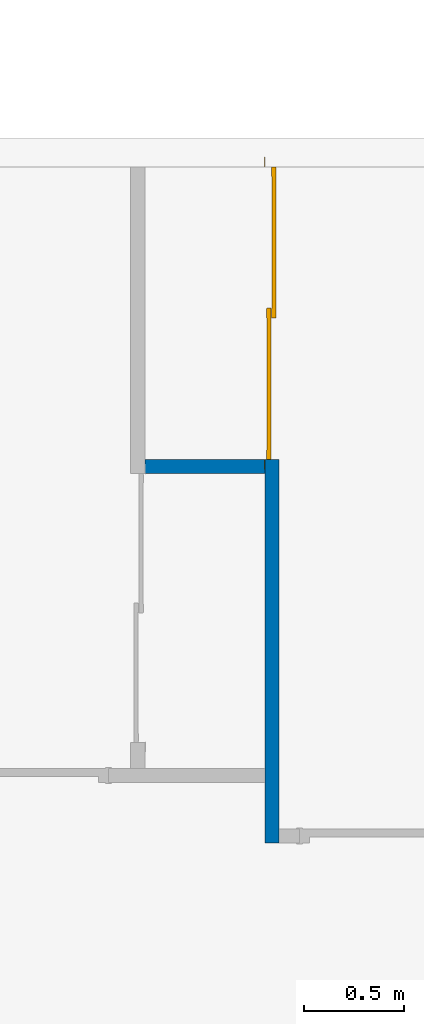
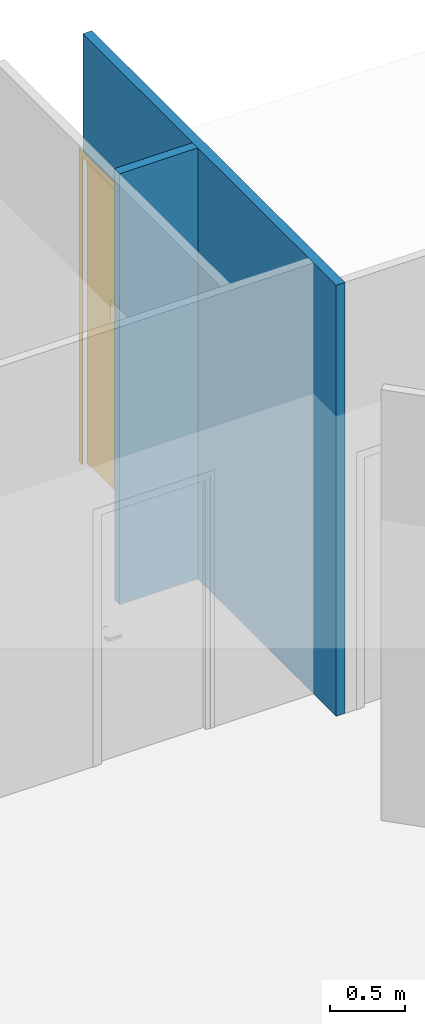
# One storey, part 5 of 7: 2 walls, 1 door, 1 opening.
"""IFC2X3 building model written with IfcOpenShell, lengths in centimetres."""

from ifc_helpers import new_model, entity, si_unit, converted_unit, derived_unit, direction, frame, frame_2d, origin, origin_2d_with_axis, place, context, subcontext, project, spatial, polyline, circle_curve, parameter, trimmed, segment, composite_curve, rectangle, outline, extrude, source, transform, mapped, material, material_list, layer, layer_set, layer_usage, type_object, type_shapes, element, fill, save


model = new_model("IFC2X3")

# Units and contexts
model_context = context("Model", 3, precision=0.001, world=origin(), true_north=direction((6.123031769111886e-17, 1.0)))
body_context = subcontext(model_context, "Body", "Model", "MODEL_VIEW")
ifc_project = project(units=[si_unit("LENGTHUNIT", "METRE", prefix="CENTI"), si_unit("AREAUNIT", "SQUARE_METRE"), si_unit("VOLUMEUNIT", "CUBIC_METRE"), converted_unit("PLANEANGLEUNIT", "DEGREE", entity("IfcRatioMeasure", 0.017453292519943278), si_unit("PLANEANGLEUNIT", "RADIAN"), dimensions=[0, 0, 0, 0, 0, 0, 0]), si_unit("MASSUNIT", "GRAM", prefix="KILO"), derived_unit("MASSDENSITYUNIT", [(si_unit("MASSUNIT", "GRAM", prefix="KILO"), 1), (si_unit("LENGTHUNIT", "METRE"), -3)]), derived_unit("MOMENTOFINERTIAUNIT", [(si_unit("LENGTHUNIT", "METRE"), 4)]), si_unit("TIMEUNIT", "SECOND"), si_unit("FREQUENCYUNIT", "HERTZ"), si_unit("THERMODYNAMICTEMPERATUREUNIT", "DEGREE_CELSIUS"), derived_unit("THERMALTRANSMITTANCEUNIT", [(si_unit("MASSUNIT", "GRAM", prefix="KILO"), 1), (si_unit("THERMODYNAMICTEMPERATUREUNIT", "KELVIN"), -1), (si_unit("TIMEUNIT", "SECOND"), -3)]), derived_unit("THERMALCONDUCTANCEUNIT", [(si_unit("MASSUNIT", "GRAM", prefix="KILO"), 1), (si_unit("LENGTHUNIT", "METRE"), 1), (si_unit("THERMODYNAMICTEMPERATUREUNIT", "KELVIN"), -1), (si_unit("TIMEUNIT", "SECOND"), -3)]), derived_unit("VOLUMETRICFLOWRATEUNIT", [(si_unit("LENGTHUNIT", "METRE"), 3), (si_unit("TIMEUNIT", "SECOND"), -1)]), derived_unit("MASSFLOWRATEUNIT", [(si_unit("MASSUNIT", "GRAM", prefix="KILO"), 1), (si_unit("TIMEUNIT", "SECOND"), -1)]), derived_unit("ROTATIONALFREQUENCYUNIT", [(si_unit("TIMEUNIT", "SECOND"), -1)]), si_unit("ELECTRICCURRENTUNIT", "AMPERE"), si_unit("ELECTRICVOLTAGEUNIT", "VOLT"), si_unit("POWERUNIT", "WATT"), si_unit("FORCEUNIT", "NEWTON", prefix="KILO"), si_unit("ILLUMINANCEUNIT", "LUX"), si_unit("LUMINOUSFLUXUNIT", "LUMEN"), si_unit("LUMINOUSINTENSITYUNIT", "CANDELA"), derived_unit("USERDEFINED", [(si_unit("MASSUNIT", "GRAM", prefix="KILO"), -1), (si_unit("LENGTHUNIT", "METRE"), -2), (si_unit("TIMEUNIT", "SECOND"), 3), (si_unit("LUMINOUSFLUXUNIT", "LUMEN"), 1)]), derived_unit("USERDEFINED", [(si_unit("MASSUNIT", "GRAM", prefix="KILO"), 1), (si_unit("LENGTHUNIT", "METRE"), 3), (si_unit("TIMEUNIT", "SECOND"), -3), (si_unit("ELECTRICCURRENTUNIT", "AMPERE"), -2)]), derived_unit("USERDEFINED", [(si_unit("LENGTHUNIT", "METRE"), 2), (si_unit("TIMEUNIT", "SECOND"), -2)]), derived_unit("SOUNDPOWERUNIT", [(si_unit("MASSUNIT", "GRAM", prefix="KILO"), 1), (si_unit("LENGTHUNIT", "METRE"), 2), (si_unit("TIMEUNIT", "SECOND"), -3)]), derived_unit("SOUNDPRESSUREUNIT", [(si_unit("MASSUNIT", "GRAM", prefix="KILO"), 1), (si_unit("LENGTHUNIT", "METRE"), -1), (si_unit("TIMEUNIT", "SECOND"), -2)]), derived_unit("LINEARVELOCITYUNIT", [(si_unit("LENGTHUNIT", "METRE"), 1), (si_unit("TIMEUNIT", "SECOND"), -1)]), si_unit("PRESSUREUNIT", "PASCAL"), derived_unit("USERDEFINED", [(si_unit("LENGTHUNIT", "METRE"), -2), (si_unit("MASSUNIT", "GRAM", prefix="KILO"), 1), (si_unit("TIMEUNIT", "SECOND"), -2)]), derived_unit("LINEARFORCEUNIT", [(si_unit("MASSUNIT", "GRAM", prefix="KILO"), 1), (si_unit("LENGTHUNIT", "METRE"), 1), (si_unit("TIMEUNIT", "SECOND"), -2), (si_unit("LENGTHUNIT", "METRE"), -1)]), derived_unit("PLANARFORCEUNIT", [(si_unit("MASSUNIT", "GRAM", prefix="KILO"), 1), (si_unit("LENGTHUNIT", "METRE"), 1), (si_unit("TIMEUNIT", "SECOND"), -2), (si_unit("LENGTHUNIT", "METRE"), -2)]), derived_unit("SPECIFICHEATCAPACITYUNIT", [(si_unit("LENGTHUNIT", "METRE"), 2), (si_unit("TIMEUNIT", "SECOND"), -2), (si_unit("THERMODYNAMICTEMPERATUREUNIT", "KELVIN"), -1)]), derived_unit("VAPORPERMEABILITYUNIT", [(si_unit("TIMEUNIT", "SECOND"), 1), (si_unit("LENGTHUNIT", "METRE"), -1)]), derived_unit("DYNAMICVISCOSITYUNIT", [(si_unit("MASSUNIT", "GRAM", prefix="KILO"), 1), (si_unit("LENGTHUNIT", "METRE"), -1), (si_unit("TIMEUNIT", "SECOND"), -1)]), derived_unit("THERMALEXPANSIONCOEFFICIENTUNIT", [(si_unit("THERMODYNAMICTEMPERATUREUNIT", "KELVIN"), -1)])], contexts=[model_context])

# Site, building, storey
site_placement = place(None, origin())
site = spatial("IfcSite", under=ifc_project, at=site_placement, Name="Default", CompositionType="ELEMENT")
building_placement = place(site_placement, origin())
building = spatial("IfcBuilding", under=site, at=building_placement, CompositionType="ELEMENT")
storey_placement = place(building_placement, origin())
storey = spatial("IfcBuildingStorey", under=building, at=storey_placement, Name="1_Rez-de-chaussée", CompositionType="ELEMENT", Elevation=0.0)

# Wall, opening, door
ifc_material_1 = material(Name="Mur par défaut")
ifc_layer = layer(ifc_material_1, 7.0)
ifc_layer_set = layer_set([ifc_layer], Name="Mur de base:Int. plâtre 70 mm")
ifc_layer_usage = layer_usage(ifc_layer_set, "AXIS2", "NEGATIVE", 3.4999999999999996)
wall_type = type_object("IfcWallType", Name="Mur de base:Int. plâtre 70 mm", PredefinedType="STANDARD", material=ifc_layer_set)
wall_1_placement = place(storey_placement, frame((50.43155623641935, 342.64664587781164, 0.0), z_axis=(0.0, 0.0, 1.0), x_axis=(0.0, -1.0, 0.0)))
wall_1 = element("IfcWallStandardCase", 1, at=wall_1_placement, inside=storey, type_object=wall_type, material=ifc_layer_usage, Name="Mur de base:Int. plâtre 70 mm", ObjectType="Mur de base:Int. plâtre 70 mm", context=body_context, shape_type="SweptSolid", body=[
    extrude(rectangle(XDim=337.0000000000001, YDim=7.000000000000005, at=frame_2d((168.50000000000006, -6.661338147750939e-16), x_axis=(-1.0, 0.0))), origin(), (0.0, 0.0, 1.0), 350.00000000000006),
])
opening_placement = place(wall_1_placement, frame((146.0, 3.499999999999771, 0.0)))
opening = element("IfcOpeningElement", 2, at=opening_placement, cuts=wall_1, Name="Placard coulissante - 2 panneaux:PL coulissante - 2 panneaux 146/250:1", ObjectType="Opening", context=body_context, shape_type="SweptSolid", body=[
    extrude(rectangle(XDim=249.9999999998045, YDim=146.0, at=frame_2d((124.99999999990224, 73.0), x_axis=(1.0, 0.0))), frame((0.0, 0.0, 0.0), z_axis=(0.0, -1.0, 0.0), x_axis=(0.0, 0.0, 1.0)), (0.0, 0.0, 1.0), 6.999999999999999),
])
ifc_material_2 = material(Name="Placard - Profil")
ifc_material_3 = material(Name="Placard - Encadrement")
ifc_material_4 = material(Name="Placard - Porte")
ifc_material_list = material_list([ifc_material_2, ifc_material_3, ifc_material_4])
door_style = type_object("IfcDoorStyle", Name="Placard coulissante - 2 panneaux:PL coulissante - 2 panneaux 146/250", ConstructionType="NOTDEFINED", OperationType="SLIDING_TO_RIGHT", ParameterTakesPrecedence=False, Sizeable=False, material=ifc_material_list)
shared_shape = source(origin(), body_context, "Body", "SweptSolid", [
    extrude(outline(composite_curve([segment(polyline([(-2.5000000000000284, -0.10000000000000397), (2.4999999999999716, -0.10000000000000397)]), True, "CONTINUOUS"), segment(polyline([(2.4999999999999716, -0.10000000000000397), (2.4999999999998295, 0.10000000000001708)]), True, "CONTINUOUS"), segment(trimmed(circle_curve(frame_2d((0.0, -21.286038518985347), x_axis=(-1.0, 0.0)), 21.531666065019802), [parameter(263.3324595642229)], [parameter(276.66754043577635)], True, "PARAMETER"), True, "CONTINUOUS"), segment(polyline([(-2.5000000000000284, 0.10000000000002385), (-2.5000000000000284, -0.10000000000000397)]), True, "CONTINUOUS")], self_intersect=False)), frame((143.49999999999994, 0.9000000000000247, 0.0), z_axis=(0.0, 0.0, 1.0), x_axis=(-1.0, 0.0, 0.0)), (0.0, 0.0, 1.0), 250.0),
    extrude(outline(composite_curve([segment(polyline([(-2.5000000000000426, -0.10000000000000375), (2.4999999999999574, -0.10000000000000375)]), True, "CONTINUOUS"), segment(polyline([(2.4999999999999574, -0.10000000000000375), (2.499999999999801, 0.10000000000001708)]), True, "CONTINUOUS"), segment(trimmed(circle_curve(frame_2d((0.0, -21.286038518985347), x_axis=(-1.0, 0.0)), 21.531666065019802), [parameter(263.3324595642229)], [parameter(276.66754043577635)], True, "PARAMETER"), True, "CONTINUOUS"), segment(polyline([(-2.5000000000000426, 0.10000000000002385), (-2.5000000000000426, -0.10000000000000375)]), True, "CONTINUOUS")], self_intersect=False)), frame((73.0, 0.9000000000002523, 0.0), z_axis=(0.0, 0.0, 1.0), x_axis=(-1.0, 0.0, 0.0)), (0.0, 0.0, 1.0), 250.0),
    extrude(outline(composite_curve([segment(polyline([(-2.5000000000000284, -0.10000000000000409), (2.4999999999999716, -0.10000000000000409)]), True, "CONTINUOUS"), segment(polyline([(2.4999999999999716, -0.10000000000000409), (2.4999999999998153, 0.10000000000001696)]), True, "CONTINUOUS"), segment(trimmed(circle_curve(frame_2d((0.0, -21.286038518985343), x_axis=(-1.0, 0.0)), 21.531666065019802), [parameter(263.3324595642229)], [parameter(276.66754043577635)], True, "PARAMETER"), True, "CONTINUOUS"), segment(polyline([(-2.5000000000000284, 0.10000000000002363), (-2.5000000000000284, -0.10000000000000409)]), True, "CONTINUOUS")], self_intersect=False)), frame((73.0, 3.400000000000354, 0.0), z_axis=(0.0, 0.0, 1.0), x_axis=(-1.0, 0.0, 0.0)), (0.0, 0.0, 1.0), 250.0),
    extrude(outline(composite_curve([segment(polyline([(-2.500000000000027, -0.10000000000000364), (2.499999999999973, -0.10000000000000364)]), True, "CONTINUOUS"), segment(polyline([(2.499999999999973, -0.10000000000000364), (2.499999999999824, 0.10000000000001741)]), True, "CONTINUOUS"), segment(trimmed(circle_curve(frame_2d((0.0, -21.286038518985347), x_axis=(-1.0, 0.0)), 21.531666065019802), [parameter(263.3324595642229)], [parameter(276.66754043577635)], True, "PARAMETER"), True, "CONTINUOUS"), segment(polyline([(-2.500000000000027, 0.10000000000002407), (-2.500000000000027, -0.10000000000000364)]), True, "CONTINUOUS")], self_intersect=False)), frame((2.499999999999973, 3.4000000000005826, 0.0), z_axis=(0.0, 0.0, 1.0), x_axis=(-1.0, 0.0, 0.0)), (0.0, 0.0, 1.0), 250.0),
    extrude(outline(polyline([(-126.14999999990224, -77.79999999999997), (128.64999999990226, -77.79999999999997), (128.64999999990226, 77.79999999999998), (-126.14999999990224, 77.79999999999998), (-126.14999999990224, 72.79999999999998), (123.64999999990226, 72.8), (123.64999999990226, -72.79999999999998), (-126.14999999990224, -72.79999999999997), (-126.14999999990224, -77.79999999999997)])), frame((73.0, -0.300000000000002, 126.14999999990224), z_axis=(0.0, 1.0, 0.0), x_axis=(0.0, 0.0, 1.0)), (0.0, 0.0, 1.0), 0.30000000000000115),
    extrude(rectangle(XDim=2.000000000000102, YDim=75.50000000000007, at=frame_2d((0.0, -7.105427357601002e-15), x_axis=(1.0, 0.0))), frame((108.24999999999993, 2.0, 0.0), z_axis=(0.0, 0.0, 1.0), x_axis=(0.0, 1.0, 0.0)), (0.0, 0.0, 1.0), 250.0),
    extrude(rectangle(XDim=1.9999999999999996, YDim=75.49999999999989, at=origin_2d_with_axis()), frame((37.74999999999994, 4.500000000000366, 0.0), z_axis=(0.0, 0.0, 1.0), x_axis=(0.0, 1.0, 0.0)), (0.0, 0.0, 1.0), 250.0),
])
type_shapes(door_style, [shared_shape])
door_placement = place(opening_placement, frame((-146.0, -7.0, 0.0)))
door = element("IfcDoor", 3, at=door_placement, inside=storey, type_object=door_style, material=ifc_material_list, Name="Placard coulissante - 2 panneaux:PL coulissante - 2 panneaux 146/250", ObjectType="Placard coulissante - 2 panneaux:PL coulissante - 2 panneaux 146/250", OverallHeight=249.9999999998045, OverallWidth=146.0, context=body_context, shape_type="MappedRepresentation", body=[
    mapped(shared_shape, transform((0.0, 0.0, 0.0), scale=1.0)),
])
fill(opening, door)

# Wall
wall_2_placement = place(storey_placement, frame((-13.068443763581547, 193.1466458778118, 0.0)))
element("IfcWallStandardCase", 4, at=wall_2_placement, inside=storey, type_object=wall_type, material=ifc_layer_usage, Name="Mur de base:Int. plâtre 70 mm", ObjectType="Mur de base:Int. plâtre 70 mm", context=body_context, shape_type="SweptSolid", body=[
    extrude(rectangle(XDim=60.00000000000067, YDim=6.999999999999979, at=frame_2d((30.000000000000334, 0.0), x_axis=(-1.0, 0.0))), origin(), (0.0, 0.0, 1.0), 350.0),
])

save(model, "model.ifc")
